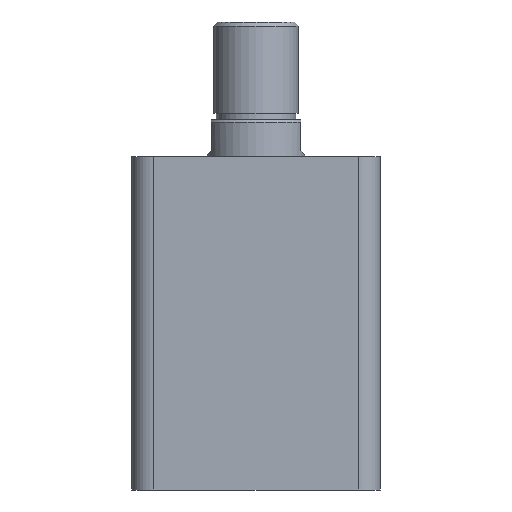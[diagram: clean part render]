
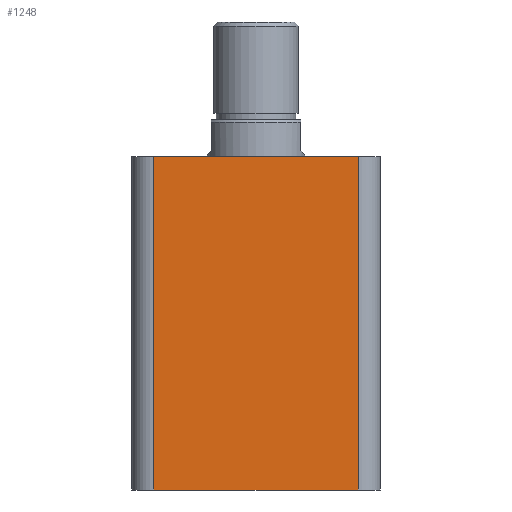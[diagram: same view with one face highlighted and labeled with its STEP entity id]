
A CAD part, front view. The second image highlights one B-rep face of the part: STEP entity #1248.
In plain terms, the highlighted planar face has unit normal (0, -1, 0).
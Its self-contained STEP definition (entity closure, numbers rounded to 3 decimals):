
#53 = EDGE_CURVE ( 'NONE', #1958, #2048, #2137, .T. ) ;
#54 = EDGE_CURVE ( 'NONE', #2048, #2050, #2131, .T. ) ;
#55 = EDGE_CURVE ( 'NONE', #2049, #2050, #2141, .T. ) ;
#56 = EDGE_CURVE ( 'NONE', #2049, #1958, #2143, .T. ) ;
#398 = AXIS2_PLACEMENT_3D ( 'NONE', #2414, #2422, #2423 ) ;
#860 = CARTESIAN_POINT ( 'NONE',  ( 47., -57., 153. ) ) ;
#876 = CARTESIAN_POINT ( 'NONE',  ( -57., -57., 0. ) ) ;
#877 = DIRECTION ( 'NONE',  ( 1., 0., 0. ) ) ;
#878 = DIRECTION ( 'NONE',  ( 0., 0., 1. ) ) ;
#879 = CARTESIAN_POINT ( 'NONE',  ( -57., -57., 153. ) ) ;
#880 = DIRECTION ( 'NONE',  ( 1., 0., 0. ) ) ;
#881 = CARTESIAN_POINT ( 'NONE',  ( -47., -57., 153. ) ) ;
#882 = DIRECTION ( 'NONE',  ( 0., 0., -1. ) ) ;
#908 = EDGE_LOOP ( 'NONE', ( #2513, #2514, #2515, #2516 ) ) ;
#1066 = CARTESIAN_POINT ( 'NONE',  ( 47., -57., 0. ) ) ;
#1067 = CARTESIAN_POINT ( 'NONE',  ( -47., -57., 153. ) ) ;
#1068 = CARTESIAN_POINT ( 'NONE',  ( 47., -57., 153. ) ) ;
#1248 = ADVANCED_FACE ( 'NONE', ( #1759 ), #2421, .F. ) ;
#1759 = FACE_OUTER_BOUND ( 'NONE', #908, .T. ) ;
#1958 = VERTEX_POINT ( 'NONE', #2454 ) ;
#2048 = VERTEX_POINT ( 'NONE', #1066 ) ;
#2049 = VERTEX_POINT ( 'NONE', #1067 ) ;
#2050 = VERTEX_POINT ( 'NONE', #1068 ) ;
#2131 = LINE ( 'NONE', #860, #2142 ) ;
#2137 = LINE ( 'NONE', #876, #2140 ) ;
#2140 = VECTOR ( 'NONE', #877, 1000. ) ;
#2141 = LINE ( 'NONE', #879, #2144 ) ;
#2142 = VECTOR ( 'NONE', #878, 1000. ) ;
#2143 = LINE ( 'NONE', #881, #2146 ) ;
#2144 = VECTOR ( 'NONE', #880, 1000. ) ;
#2146 = VECTOR ( 'NONE', #882, 1000. ) ;
#2414 = CARTESIAN_POINT ( 'NONE',  ( -57., -57., 153. ) ) ;
#2421 = PLANE ( 'NONE',  #398 ) ;
#2422 = DIRECTION ( 'NONE',  ( 0., 1., 0. ) ) ;
#2423 = DIRECTION ( 'NONE',  ( 0., 0., 1. ) ) ;
#2454 = CARTESIAN_POINT ( 'NONE',  ( -47., -57., 0. ) ) ;
#2513 = ORIENTED_EDGE ( 'NONE', *, *, #53, .T. ) ;
#2514 = ORIENTED_EDGE ( 'NONE', *, *, #54, .T. ) ;
#2515 = ORIENTED_EDGE ( 'NONE', *, *, #55, .F. ) ;
#2516 = ORIENTED_EDGE ( 'NONE', *, *, #56, .T. ) ;
